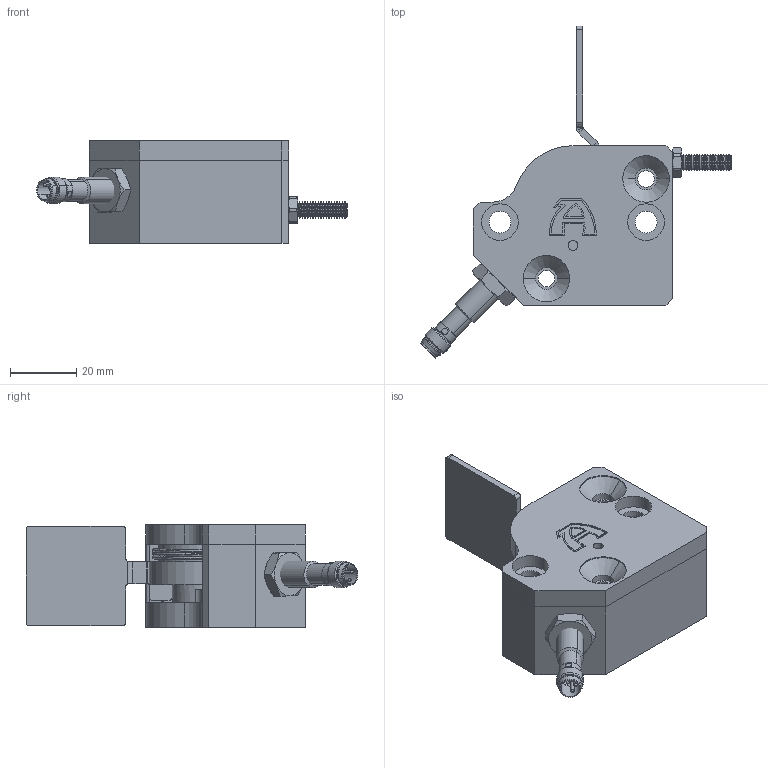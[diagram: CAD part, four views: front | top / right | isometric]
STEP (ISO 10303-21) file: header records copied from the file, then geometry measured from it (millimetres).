
FILE_DESCRIPTION (( 'STEP AP214' ), '1' );
FILE_NAME ('FC-3-A-Tooling.step', '2022-05-16T07:01:40', ( '' ), ( '' ), 'SwSTEP 2.0', 'SolidWorks 2010', '' );
FILE_SCHEMA (( 'AUTOMOTIVE_DESIGN' ));
Length unit declared in the file: millimetre
Products named in the file (11): CPK-10,0-m6x20-A-Tooling-A-Tooling; A-TOOLING MC6S M4x8; Hus-FC3; Lock-FC3; Vridfjader-FC3; I08000078_givare; 09134___5_25-mattssons; 4392_4__5-mattssons; Givare_fc3; FC3_Pl廞_givare_variant2(Default); FC-3-A-Tooling
Assembly tree (11 placements, depth 2):
  FC-3-A-Tooling
    Lock-FC3
    4392_4__5-mattssons
    Hus-FC3
    09134___5_25-mattssons
    A-TOOLING MC6S M4x8  x2
    I08000078_givare
    Vridfjader-FC3
    CPK-10,0-m6x20-A-Tooling-A-Tooling
    FC3_Pl廞_givare_variant2(Default)
    Givare_fc3
Bounding box: 93.6 x 99.96 x 31 mm (x, y, z)
Volume: 65789.3 mm3; surface area: 30435.7 mm2
Topology: 10 solids, 17 shells, 836 faces, 1924 edges, 1138 vertices
Faces by surface type: cylinder 316, cone 202, plane 159, torus 142, bspline 10, sphere 7
Entity records: 24601 total; most frequent: CARTESIAN_POINT 5243, DIRECTION 4448, ORIENTED_EDGE 3694, EDGE_CURVE 1857, AXIS2_PLACEMENT_3D 1851, VERTEX_POINT 1098, CIRCLE 1037, EDGE_LOOP 873
